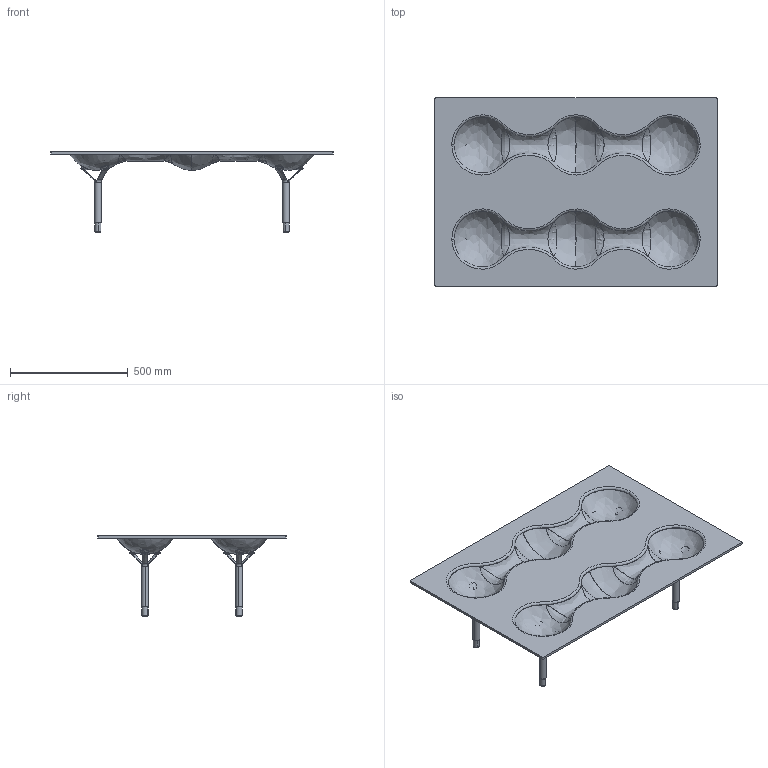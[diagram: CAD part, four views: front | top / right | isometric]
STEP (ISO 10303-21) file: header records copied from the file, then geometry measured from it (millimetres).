
FILE_DESCRIPTION(/* description */ (''),/* implementation_level */ '2;1');
FILE_NAME(/* name */ '031 - Konx 120x80',/* time_stamp */ '2010-12-02T10:17:28+01:00',/* author */ (''),/* organization */ (''),/* preprocessor_version */ 'ST-DEVELOPER v10',/* originating_system */ '',/* authorisation */ '');
FILE_SCHEMA (('CONFIG_CONTROL_DESIGN'));
Length unit declared in the file: centimetre
Products named in the file (1): 1
Bounding box: 1200 x 800 x 343.08 mm (x, y, z)
Volume: 7077245.2 mm3; surface area: 2408146.1 mm2
Topology: 33 solids, 33 shells, 358 faces, 812 edges, 456 vertices
Faces by surface type: bspline 340, plane 18
Entity records: 20363 total; most frequent: CARTESIAN_POINT 15994, ORIENTED_EDGE 1488, EDGE_CURVE 744, VERTEX_POINT 456, EDGE_LOOP 370, ADVANCED_FACE 358, FACE_OUTER_BOUND 358, B_SPLINE_CURVE_WITH_KNOTS 341
